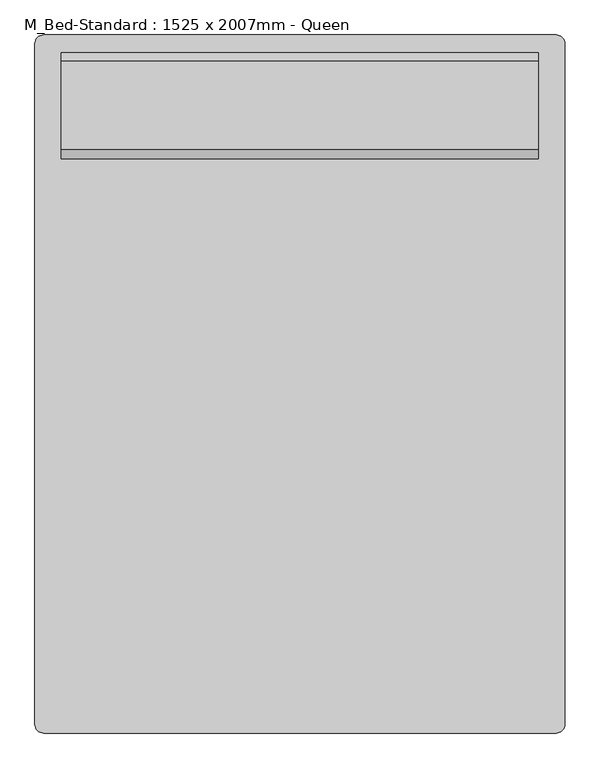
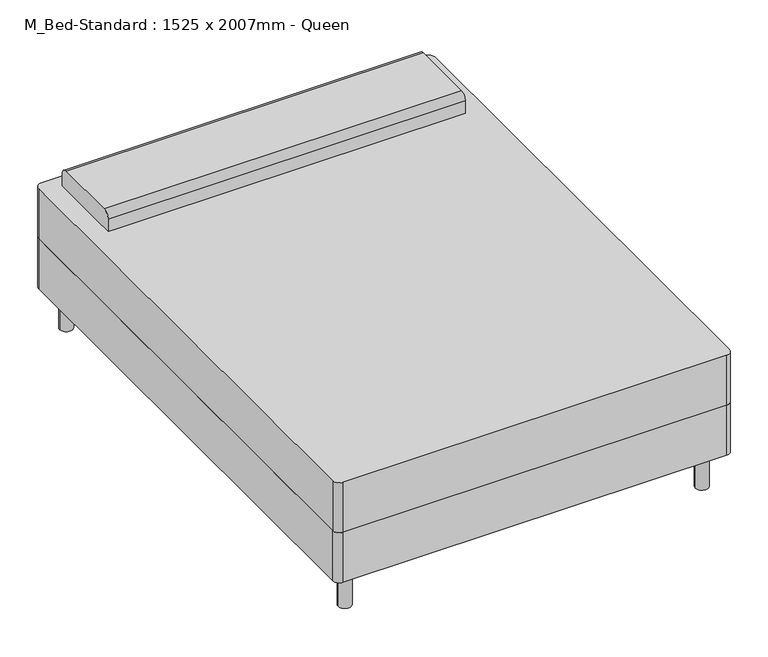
"""IFC4 building model written with IfcOpenShell, lengths in millimetres: furniture geometry, M_Bed-Standard : 1525 x 2007mm - Queen."""

import ifcopenshell
import ifcopenshell.guid

model = None  # the IFC model being written
_history = None  # IfcOwnerHistory: only IFC2X3 demands one
_inside = {}  # id of a spatial element -> (the spatial element, [elements in it])
_under = {}  # id of a project, library or spatial element -> (it, [spatial elements below it])
_declared = {}  # id of a project -> (the project, [libraries it declares])
_typed = {}  # id of a type object -> (the type object, [elements of that type])
_made_of = {}  # id of a material, layer set ... -> (it, [elements and type objects made of it])


def new_model(schema):
    """Start an empty IFC model of exactly this schema.

    Asked for "IFC4X3", IfcOpenShell would pick the latest addendum, in which some entities
    have other attributes; the version numbers below select the first issue.
    IFC2X3 requires an IfcOwnerHistory on every rooted entity: one is made here for all.
    """
    global model, _history
    if schema == "IFC4X3":
        model = ifcopenshell.file(schema_version=(4, 3, 0, 0))
    else:
        model = ifcopenshell.file(schema=schema)
    _inside.clear()
    _under.clear()
    _declared.clear()
    _typed.clear()
    _made_of.clear()
    _history = None
    if model.schema == "IFC2X3":
        org = make("IfcOrganization", Name="unknown")
        user = make(
            "IfcPersonAndOrganization",
            ThePerson=make("IfcPerson", FamilyName="unknown"),
            TheOrganization=org,
        )
        app = make(
            "IfcApplication",
            ApplicationDeveloper=org,
            Version="unknown",
            ApplicationFullName="unknown",
            ApplicationIdentifier="unknown",
        )
        _history = make(
            "IfcOwnerHistory",
            OwningUser=user,
            OwningApplication=app,
            ChangeAction="ADDED",
            CreationDate=0,
        )
    return model


def make(cls, **values):
    """One entity of the class cls with the attributes given. An attribute that is None is left unset."""
    return model.create_entity(
        cls, **{name: value for name, value in values.items() if value is not None}
    )


def rooted(cls, **values):
    """An entity with a GlobalId (a new one), such as an element, a storey or a relation."""
    return make(cls, GlobalId=ifcopenshell.guid.new(), OwnerHistory=_history, **values)


def si_unit(unit_type, name, prefix=None):
    """IfcSIUnit, for example si_unit("LENGTHUNIT", "METRE", prefix="MILLI")."""
    return make("IfcSIUnit", UnitType=unit_type, Prefix=prefix, Name=name)


def assignment(units):
    """IfcUnitAssignment: the units of a project."""
    return None if units is None else make("IfcUnitAssignment", Units=units)


def point(xyz):
    """IfcCartesianPoint."""
    return None if xyz is None else make("IfcCartesianPoint", Coordinates=xyz)


def direction(xyz):
    """IfcDirection."""
    return None if xyz is None else make("IfcDirection", DirectionRatios=xyz)


def frame(location, z_axis=None, x_axis=None):
    """IfcAxis2Placement3D, a coordinate frame: its origin and axes. An axis left out is left unset."""
    return make(
        "IfcAxis2Placement3D",
        Location=point(location),
        Axis=direction(z_axis),
        RefDirection=direction(x_axis),
    )


def frame_2d(location, x_axis=None):
    """IfcAxis2Placement2D, a coordinate frame in the plane: its origin and x axis."""
    return make(
        "IfcAxis2Placement2D", Location=point(location), RefDirection=direction(x_axis)
    )


def origin():
    """The frame at (0, 0, 0) with its axes left unset."""
    return frame((0.0, 0.0, 0.0))


def origin_with_axes():
    """The frame at (0, 0, 0) with the z axis (0, 0, 1) and the x axis (1, 0, 0) written out."""
    return frame((0.0, 0.0, 0.0), z_axis=(0.0, 0.0, 1.0), x_axis=(1.0, 0.0, 0.0))


def place(relative_to, where):
    """IfcLocalPlacement: puts the frame where relative to a parent placement (None: the world)."""
    return make(
        "IfcLocalPlacement", PlacementRelTo=relative_to, RelativePlacement=where
    )


def context(
    kind, dimensions, precision=None, world=None, true_north=None, identifier=None
):
    """IfcGeometricRepresentationContext, for example the 3D "Model" context."""
    return make(
        "IfcGeometricRepresentationContext",
        ContextIdentifier=identifier,
        ContextType=kind,
        CoordinateSpaceDimension=dimensions,
        Precision=precision,
        WorldCoordinateSystem=world,
        TrueNorth=true_north,
    )


def project(units=None, contexts=None):
    """IfcProject with its units and contexts."""
    return rooted(
        "IfcProject",
        Name="project",
        RepresentationContexts=contexts,
        UnitsInContext=assignment(units),
    )


def spatial(cls, under=None, at=None, **own):
    """A site, building, storey or space (cls), placed at a placement, below another one or the project."""
    s = rooted(cls, ObjectPlacement=at, **own)
    if under is not None:
        _under.setdefault(under.id(), (under, []))[1].append(s)
    return s


def polyline(points):
    """IfcPolyline through the points."""
    return make("IfcPolyline", Points=[point(p) for p in points])


def circle_curve(where, radius):
    """IfcCircle in the frame where."""
    return make("IfcCircle", Position=where, Radius=radius)


def trimmed(basis, trim1, trim2, sense, master):
    """IfcTrimmedCurve: the piece of a basis curve between two trims."""
    return make(
        "IfcTrimmedCurve",
        BasisCurve=basis,
        Trim1=trim1,
        Trim2=trim2,
        SenseAgreement=sense,
        MasterRepresentation=master,
    )


def segment(curve, same_sense, transition):
    """IfcCompositeCurveSegment."""
    return make(
        "IfcCompositeCurveSegment",
        Transition=transition,
        SameSense=same_sense,
        ParentCurve=curve,
    )


def composite_curve(segments, self_intersect=None):
    """IfcCompositeCurve: segments joined end to end."""
    return make("IfcCompositeCurve", Segments=segments, SelfIntersect=self_intersect)


def outline(outer, holes=None, kind="AREA"):
    """IfcArbitraryClosedProfileDef: a profile drawn as a closed curve; with holes, ...WithVoids."""
    if holes is None:
        return make("IfcArbitraryClosedProfileDef", ProfileType=kind, OuterCurve=outer)
    return make(
        "IfcArbitraryProfileDefWithVoids",
        ProfileType=kind,
        OuterCurve=outer,
        InnerCurves=holes,
    )


def extrude(swept, where, along, depth):
    """IfcExtrudedAreaSolid: the profile swept, set in the frame where, extruded along a direction by depth."""
    return make(
        "IfcExtrudedAreaSolid",
        SweptArea=swept,
        Position=where,
        ExtrudedDirection=direction(along),
        Depth=depth,
    )


def shape(context_of_items, identifier, shape_type, items):
    """IfcShapeRepresentation: the items that make up one representation, for example the "Body"."""
    return make(
        "IfcShapeRepresentation",
        ContextOfItems=context_of_items,
        RepresentationIdentifier=identifier,
        RepresentationType=shape_type,
        Items=items,
    )


def source(mapping_origin, context_of_items, identifier, shape_type, items):
    """IfcRepresentationMap: a shape defined once, which mapped items show again and again."""
    return make(
        "IfcRepresentationMap",
        MappingOrigin=mapping_origin,
        MappedRepresentation=shape(context_of_items, identifier, shape_type, items),
    )


def transform(
    local_origin,
    x_axis=None,
    y_axis=None,
    z_axis=None,
    scale=None,
    scale2=None,
    scale3=None,
    uniform=True,
):
    """IfcCartesianTransformationOperator3D, or its non-uniform kind. x_axis, y_axis, z_axis: its Axis1, 2, 3."""
    if uniform:
        return make(
            "IfcCartesianTransformationOperator3D",
            Axis1=direction(x_axis),
            Axis2=direction(y_axis),
            LocalOrigin=point(local_origin),
            Scale=scale,
            Axis3=direction(z_axis),
        )
    return make(
        "IfcCartesianTransformationOperator3DnonUniform",
        Axis1=direction(x_axis),
        Axis2=direction(y_axis),
        LocalOrigin=point(local_origin),
        Scale=scale,
        Axis3=direction(z_axis),
        Scale2=scale2,
        Scale3=scale3,
    )


def mapped(mapping_source, mapping_target):
    """IfcMappedItem: shows the shape of a source again, moved by a transform."""
    return make(
        "IfcMappedItem", MappingSource=mapping_source, MappingTarget=mapping_target
    )


def made_of(thing, what):
    """Note that an element or type object is made of a material, layer set ...; save() writes the relation."""
    if what is not None:
        _made_of.setdefault(what.id(), (what, []))[1].append(thing)
    return thing


def element(
    cls,
    number,
    at=None,
    inside=None,
    cuts=None,
    type_object=None,
    material=None,
    context=None,
    identifier="Body",
    shape_type=None,
    held_by="IfcProductDefinitionShape",
    body=None,
    shapes=None,
    **own,
):
    """One element of the class cls, such as IfcWall. Its Tag is "e" and its number.

    at: its placement. inside: the storey or other place that contains it. cuts: it is an
    opening in that element (IfcRelVoidsElement). A single representation is given by context,
    identifier, shape_type and body (its items); several are given by shapes. held_by: the class
    of the entity that holds the representations. save() writes the other relations.
    """
    e = rooted(cls, Tag="e%d" % number, ObjectPlacement=at, **own)
    if body is not None:
        shapes = [shape(context, identifier, shape_type, body)]
    if shapes is not None:
        e.Representation = make(held_by, Representations=shapes)
    if inside is not None:
        _inside.setdefault(inside.id(), (inside, []))[1].append(e)
    if cuts is not None:
        rooted(
            "IfcRelVoidsElement", RelatingBuildingElement=cuts, RelatedOpeningElement=e
        )
    if type_object is not None:
        _typed.setdefault(type_object.id(), (type_object, []))[1].append(e)
    return made_of(e, material)


def aggregate(whole, parts):
    """IfcRelAggregates: a whole, such as a stair, and the parts it consists of."""
    return rooted("IfcRelAggregates", RelatingObject=whole, RelatedObjects=parts)


def save(model, path):
    """Write the relations noted so far, then the file.

    IfcRelAggregates (storeys below a building ...), IfcRelContainedInSpatialStructure (elements
    in a storey), IfcRelDefinesByType, IfcRelAssociatesMaterial and IfcRelDeclares: one each for
    every whole, place, type object, material and project.
    """
    for whole, parts in _under.values():
        aggregate(whole, parts)
    for where, things in _inside.values():
        rooted(
            "IfcRelContainedInSpatialStructure",
            RelatedElements=things,
            RelatingStructure=where,
        )
    for kind, things in _typed.values():
        rooted("IfcRelDefinesByType", RelatedObjects=things, RelatingType=kind)
    for what, things in _made_of.values():
        rooted("IfcRelAssociatesMaterial", RelatedObjects=things, RelatingMaterial=what)
    for by, libraries in _declared.values():
        rooted("IfcRelDeclares", RelatingContext=by, RelatedDefinitions=libraries)
    model.write(path)


def m_bed_standard_1525_x_2007mm_queen_67038778(model_context):
    return source(origin(), model_context, "Body", "SweptSolid", [
        extrude(outline(composite_curve([segment(polyline([(-491.0114754, -1023.695082), (-491.0114754, 932.504918)]), True, "CONTINUOUS"), segment(trimmed(circle_curve(frame_2d((-465.6114754, 932.504918)), 25.4), [point((-491.0114754, 932.504918))], [point((-465.6114754, 957.904918))], False, "CARTESIAN"), True, "CONTINUOUS"), segment(polyline([(-465.6114754, 957.904918), (1008.5885246, 957.904918)]), True, "CONTINUOUS"), segment(trimmed(circle_curve(frame_2d((1008.5885246, 932.504918)), 25.4), [point((1008.5885246, 957.904918))], [point((1033.9885246, 932.504918))], False, "CARTESIAN"), True, "CONTINUOUS"), segment(polyline([(1033.9885246, 932.504918), (1033.9885246, -1023.695082)]), True, "CONTINUOUS"), segment(trimmed(circle_curve(frame_2d((1008.5885246, -1023.695082)), 25.4), [point((1033.9885246, -1023.695082))], [point((1008.5885246, -1049.095082))], False, "CARTESIAN"), True, "CONTINUOUS"), segment(polyline([(1008.5885246, -1049.095082), (-465.6114754, -1049.095082)]), True, "CONTINUOUS"), segment(trimmed(circle_curve(frame_2d((-465.6114754, -1023.695082)), 25.4), [point((-465.6114754, -1049.095082))], [point((-491.0114754, -1023.695082))], False, "CARTESIAN"), True, "CONTINUOUS")], self_intersect=False)), frame((0.0, 0.0, 152.4), z_axis=(0.0, 0.0, 1.0), x_axis=(1.0, 0.0, 0.0)), (0.0, 0.0, 1.0), 203.2),
        extrude(outline(composite_curve([segment(polyline([(602.304918, 558.8), (602.304918, 609.6)]), True, "CONTINUOUS"), segment(trimmed(circle_curve(frame_2d((627.704918, 609.6)), 25.4), [point((602.304918, 609.6))], [point((627.704918, 635.0))], False, "CARTESIAN"), True, "CONTINUOUS"), segment(polyline([(627.704918, 635.0), (881.704918, 635.0)]), True, "CONTINUOUS"), segment(trimmed(circle_curve(frame_2d((881.704918, 609.6)), 25.4), [point((881.704918, 635.0))], [point((907.104918, 609.6))], False, "CARTESIAN"), True, "CONTINUOUS"), segment(polyline([(907.104918, 609.6), (907.104918, 558.8), (602.304918, 558.8)]), True, "CONTINUOUS")], self_intersect=False)), frame((-414.8114754, 0.0, 0.0), z_axis=(1.0, 0.0, 0.0), x_axis=(0.0, 1.0, 0.0)), (0.0, 0.0, 1.0), 1372.6),
        extrude(outline(composite_curve([segment(trimmed(circle_curve(frame_2d((-414.8114754, 881.704918)), 25.4), [point((-440.2114754, 881.704918))], [point((-389.4114754, 881.704918))], False, "CARTESIAN"), True, "CONTINUOUS"), segment(trimmed(circle_curve(frame_2d((-414.8114754, 881.704918)), 25.4), [point((-389.4114754, 881.704918))], [point((-440.2114754, 881.704918))], False, "CARTESIAN"), True, "CONTINUOUS")], self_intersect=False)), origin_with_axes(), (0.0, 0.0, 1.0), 152.4),
        extrude(outline(composite_curve([segment(trimmed(circle_curve(frame_2d((957.7885246, 881.704918)), 25.4), [point((932.3885246, 881.704918))], [point((983.1885246, 881.704918))], False, "CARTESIAN"), True, "CONTINUOUS"), segment(trimmed(circle_curve(frame_2d((957.7885246, 881.704918)), 25.4), [point((983.1885246, 881.704918))], [point((932.3885246, 881.704918))], False, "CARTESIAN"), True, "CONTINUOUS")], self_intersect=False)), origin_with_axes(), (0.0, 0.0, 1.0), 152.4),
        extrude(outline(composite_curve([segment(trimmed(circle_curve(frame_2d((957.7885246, -972.895082)), 25.4), [point((932.3885246, -972.895082))], [point((983.1885246, -972.895082))], False, "CARTESIAN"), True, "CONTINUOUS"), segment(trimmed(circle_curve(frame_2d((957.7885246, -972.895082)), 25.4), [point((983.1885246, -972.895082))], [point((932.3885246, -972.895082))], False, "CARTESIAN"), True, "CONTINUOUS")], self_intersect=False)), origin_with_axes(), (0.0, 0.0, 1.0), 152.4),
        extrude(outline(composite_curve([segment(trimmed(circle_curve(frame_2d((-414.8114754, -972.895082)), 25.4), [point((-440.2114754, -972.895082))], [point((-389.4114754, -972.895082))], False, "CARTESIAN"), True, "CONTINUOUS"), segment(trimmed(circle_curve(frame_2d((-414.8114754, -972.895082)), 25.4), [point((-389.4114754, -972.895082))], [point((-440.2114754, -972.895082))], False, "CARTESIAN"), True, "CONTINUOUS")], self_intersect=False)), origin_with_axes(), (0.0, 0.0, 1.0), 152.4),
        extrude(outline(composite_curve([segment(polyline([(-465.6114754, 957.904918), (1008.5885246, 957.904918)]), True, "CONTINUOUS"), segment(trimmed(circle_curve(frame_2d((1008.5885246, 932.504918)), 25.4), [point((1008.5885246, 957.904918))], [point((1033.9885246, 932.504918))], False, "CARTESIAN"), True, "CONTINUOUS"), segment(polyline([(1033.9885246, 932.504918), (1033.9885246, -1023.695082)]), True, "CONTINUOUS"), segment(trimmed(circle_curve(frame_2d((1008.5885246, -1023.695082)), 25.4), [point((1033.9885246, -1023.695082))], [point((1008.5885246, -1049.095082))], False, "CARTESIAN"), True, "CONTINUOUS"), segment(polyline([(1008.5885246, -1049.095082), (-465.6114754, -1049.095082)]), True, "CONTINUOUS"), segment(trimmed(circle_curve(frame_2d((-465.6114754, -1023.695082)), 25.4), [point((-465.6114754, -1049.095082))], [point((-491.0114754, -1023.695082))], False, "CARTESIAN"), True, "CONTINUOUS"), segment(polyline([(-491.0114754, -1023.695082), (-491.0114754, 932.504918)]), True, "CONTINUOUS"), segment(trimmed(circle_curve(frame_2d((-465.6114754, 932.504918)), 25.4), [point((-491.0114754, 932.504918))], [point((-465.6114754, 957.904918))], False, "CARTESIAN"), True, "CONTINUOUS")], self_intersect=False)), frame((0.0, 0.0, 355.6), z_axis=(0.0, 0.0, 1.0), x_axis=(1.0, 0.0, 0.0)), (0.0, 0.0, 1.0), 203.2),
    ])


if __name__ == "__main__":
    model = new_model("IFC4")
    model_context = context("Model", 3, world=origin())
    ifc_project = project(units=[si_unit("LENGTHUNIT", "METRE", prefix="MILLI")], contexts=[model_context])
    site = spatial("IfcSite", under=ifc_project)
    building = spatial("IfcBuilding", under=site)
    placement = place(None, origin())
    m_bed_standard_1525_x_2007mm_queen_shape = m_bed_standard_1525_x_2007mm_queen_67038778(model_context)
    element("IfcFurniture", 1, ObjectType="M_Bed-Standard : 1525 x 2007mm - Queen", at=placement, inside=building, context=model_context, shape_type="MappedRepresentation", body=[
        mapped(m_bed_standard_1525_x_2007mm_queen_shape, transform((0.0, 0.0, 0.0), x_axis=(1.0, 0.0, 0.0), y_axis=(0.0, 1.0, 0.0), z_axis=(0.0, 0.0, 1.0))),
    ])
    save(model, "model.ifc")
